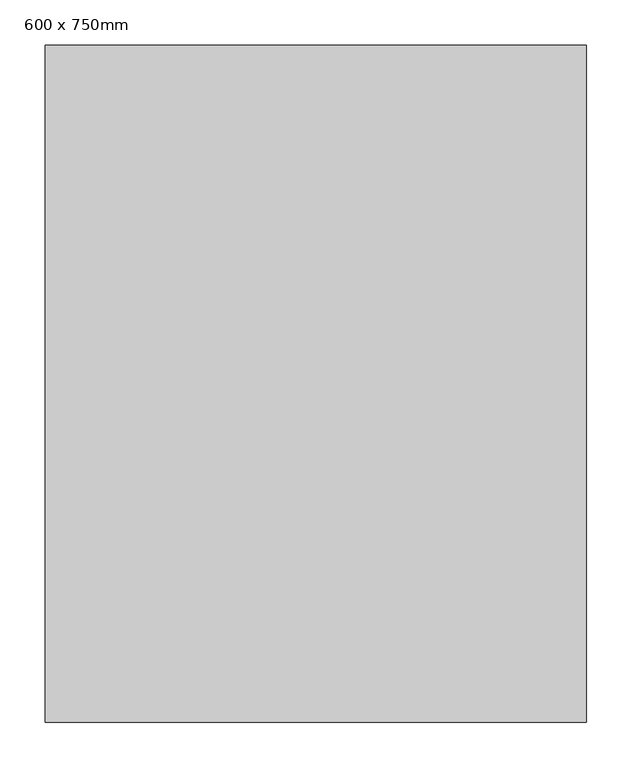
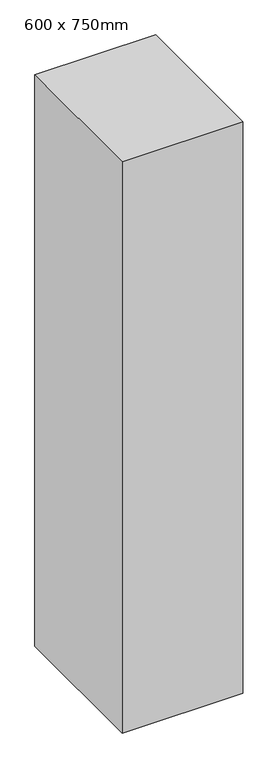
"""IFC4 building model written with IfcOpenShell, lengths in millimetres: column geometry, 混凝土 - 矩形 - 柱 : 600 x 750mm."""

from ifc_helpers import new_model, si_unit, origin, origin_with_axes, place, context, project, spatial, polyline, outline, extrude, source, transform, mapped, element, save


def column_600_x_750mm_3019e928(model_context):
    return source(origin(), model_context, "Body", "SweptSolid", [
        extrude(outline(polyline([(300.0, 375.0), (300.0, -375.0), (-300.0, -375.0), (-300.0, 375.0), (300.0, 375.0)])), origin_with_axes(), (0.0, 0.0, 1.0), 3000.0),
    ])


if __name__ == "__main__":
    model = new_model("IFC4")
    model_context = context("Model", 3, world=origin())
    ifc_project = project(units=[si_unit("LENGTHUNIT", "METRE", prefix="MILLI")], contexts=[model_context])
    site = spatial("IfcSite", under=ifc_project)
    building = spatial("IfcBuilding", under=site)
    placement = place(None, origin())
    column_600_x_750mm_shape = column_600_x_750mm_3019e928(model_context)
    element("IfcColumn", 1, ObjectType="混凝土 - 矩形 - 柱 : 600 x 750mm", at=placement, inside=building, context=model_context, shape_type="MappedRepresentation", body=[
        mapped(column_600_x_750mm_shape, transform((0.0, 0.0, 0.0), x_axis=(1.0, 0.0, 0.0), y_axis=(0.0, 1.0, 0.0), z_axis=(0.0, 0.0, 1.0))),
    ])
    save(model, "model.ifc")
